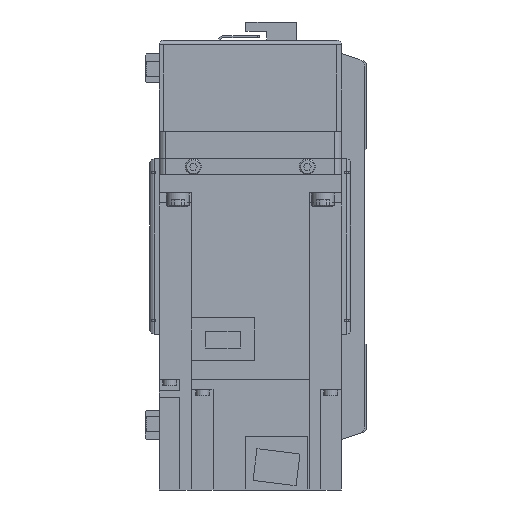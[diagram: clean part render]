
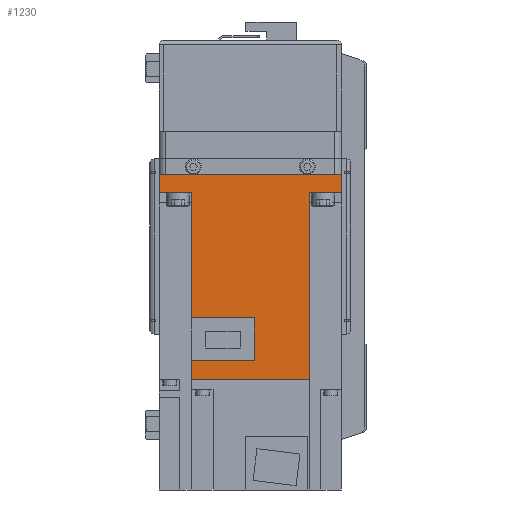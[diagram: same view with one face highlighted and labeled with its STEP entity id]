
A CAD part, left-side view. The second image highlights one B-rep face of the part: STEP entity #1230.
In plain terms, the highlighted planar face has unit normal (-1, 0, 0) as drawn and (1, 0, 0) by its records, which use the part's own axes.
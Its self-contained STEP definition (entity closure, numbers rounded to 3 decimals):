
#1230 = ADVANCED_FACE( '', ( #3432 ), #3433, .F. );
#3432 = FACE_OUTER_BOUND( '', #6988, .T. );
#3433 = PLANE( '', #6989 );
#6988 = EDGE_LOOP( '', ( #10532, #10533, #10534, #10535, #10536, #10537, #10538, #10539, #10540, #10541, #10542, #10543 ) );
#6989 = AXIS2_PLACEMENT_3D( '', #10544, #10545, #10546 );
#10532 = ORIENTED_EDGE( '', *, *, #20021, .F. );
#10533 = ORIENTED_EDGE( '', *, *, #20022, .F. );
#10534 = ORIENTED_EDGE( '', *, *, #20023, .F. );
#10535 = ORIENTED_EDGE( '', *, *, #20024, .T. );
#10536 = ORIENTED_EDGE( '', *, *, #20025, .F. );
#10537 = ORIENTED_EDGE( '', *, *, #20026, .T. );
#10538 = ORIENTED_EDGE( '', *, *, #20027, .T. );
#10539 = ORIENTED_EDGE( '', *, *, #20028, .F. );
#10540 = ORIENTED_EDGE( '', *, *, #20029, .F. );
#10541 = ORIENTED_EDGE( '', *, *, #20030, .F. );
#10542 = ORIENTED_EDGE( '', *, *, #20031, .F. );
#10543 = ORIENTED_EDGE( '', *, *, #20032, .F. );
#10544 = CARTESIAN_POINT( '', ( 40., 89.8, 40. ) );
#10545 = DIRECTION( '', ( -1., 0., 0. ) );
#10546 = DIRECTION( '', ( 0., 0., 1. ) );
#20021 = EDGE_CURVE( '', #23695, #23696, #23697, .T. );
#20022 = EDGE_CURVE( '', #23698, #23695, #23699, .T. );
#20023 = EDGE_CURVE( '', #23700, #23698, #23701, .T. );
#20024 = EDGE_CURVE( '', #23700, #23702, #23703, .T. );
#20025 = EDGE_CURVE( '', #23704, #23702, #23705, .T. );
#20026 = EDGE_CURVE( '', #23704, #23706, #23707, .T. );
#20027 = EDGE_CURVE( '', #23706, #23708, #23709, .T. );
#20028 = EDGE_CURVE( '', #23710, #23708, #23711, .T. );
#20029 = EDGE_CURVE( '', #23712, #23710, #23713, .T. );
#20030 = EDGE_CURVE( '', #23714, #23712, #23715, .T. );
#20031 = EDGE_CURVE( '', #23716, #23714, #23717, .T. );
#20032 = EDGE_CURVE( '', #23696, #23716, #23718, .T. );
#23695 = VERTEX_POINT( '', #29171 );
#23696 = VERTEX_POINT( '', #29172 );
#23697 = LINE( '', #29173, #29174 );
#23698 = VERTEX_POINT( '', #29175 );
#23699 = LINE( '', #29176, #29177 );
#23700 = VERTEX_POINT( '', #29178 );
#23701 = LINE( '', #29179, #29180 );
#23702 = VERTEX_POINT( '', #29181 );
#23703 = LINE( '', #29182, #29183 );
#23704 = VERTEX_POINT( '', #29184 );
#23705 = LINE( '', #29185, #29186 );
#23706 = VERTEX_POINT( '', #29187 );
#23707 = LINE( '', #29188, #29189 );
#23708 = VERTEX_POINT( '', #29190 );
#23709 = LINE( '', #29191, #29192 );
#23710 = VERTEX_POINT( '', #29193 );
#23711 = LINE( '', #29194, #29195 );
#23712 = VERTEX_POINT( '', #29196 );
#23713 = LINE( '', #29197, #29198 );
#23714 = VERTEX_POINT( '', #29199 );
#23715 = LINE( '', #29200, #29201 );
#23716 = VERTEX_POINT( '', #29202 );
#23717 = LINE( '', #29203, #29204 );
#23718 = LINE( '', #29205, #29206 );
#29171 = CARTESIAN_POINT( '', ( 40., 81.4, -25.95 ) );
#29172 = CARTESIAN_POINT( '', ( 40., 81.4, 1.8 ) );
#29173 = CARTESIAN_POINT( '', ( 40., 81.4, -26. ) );
#29174 = VECTOR( '', #37542, 1000. );
#29175 = CARTESIAN_POINT( '', ( 40., 89.8, -25.95 ) );
#29176 = CARTESIAN_POINT( '', ( 40., 158., -25.95 ) );
#29177 = VECTOR( '', #37543, 1000. );
#29178 = CARTESIAN_POINT( '', ( 40., 89.8, 25.95 ) );
#29179 = CARTESIAN_POINT( '', ( 40., 89.8, 40. ) );
#29180 = VECTOR( '', #37544, 1000. );
#29181 = CARTESIAN_POINT( '', ( 40., 8., 25.95 ) );
#29182 = CARTESIAN_POINT( '', ( 40., 158., 25.95 ) );
#29183 = VECTOR( '', #37545, 1000. );
#29184 = CARTESIAN_POINT( '', ( 40., 8., 40. ) );
#29185 = CARTESIAN_POINT( '', ( 40., 8., 40. ) );
#29186 = VECTOR( '', #37546, 1000. );
#29187 = CARTESIAN_POINT( '', ( 40., 0., 40. ) );
#29188 = CARTESIAN_POINT( '', ( 40., 89.8, 40. ) );
#29189 = VECTOR( '', #37547, 1000. );
#29190 = CARTESIAN_POINT( '', ( 40., 0., -40. ) );
#29191 = CARTESIAN_POINT( '', ( 40., 0., 40. ) );
#29192 = VECTOR( '', #37548, 1000. );
#29193 = CARTESIAN_POINT( '', ( 40., 8., -40. ) );
#29194 = CARTESIAN_POINT( '', ( 40., 89.8, -40. ) );
#29195 = VECTOR( '', #37549, 1000. );
#29196 = CARTESIAN_POINT( '', ( 40., 8., -25.95 ) );
#29197 = CARTESIAN_POINT( '', ( 40., 8., 40. ) );
#29198 = VECTOR( '', #37550, 1000. );
#29199 = CARTESIAN_POINT( '', ( 40., 62.8, -25.95 ) );
#29200 = CARTESIAN_POINT( '', ( 40., 158., -25.95 ) );
#29201 = VECTOR( '', #37551, 1000. );
#29202 = CARTESIAN_POINT( '', ( 40., 62.8, 1.8 ) );
#29203 = CARTESIAN_POINT( '', ( 40., 62.8, 1.8 ) );
#29204 = VECTOR( '', #37552, 1000. );
#29205 = CARTESIAN_POINT( '', ( 40., 81.4, 1.8 ) );
#29206 = VECTOR( '', #37553, 1000. );
#37542 = DIRECTION( '', ( 0., 0., 1. ) );
#37543 = DIRECTION( '', ( 0., -1., 0. ) );
#37544 = DIRECTION( '', ( 0., 0., -1. ) );
#37545 = DIRECTION( '', ( 0., -1., 0. ) );
#37546 = DIRECTION( '', ( 0., 0., -1. ) );
#37547 = DIRECTION( '', ( 0., -1., 0. ) );
#37548 = DIRECTION( '', ( 0., 0., -1. ) );
#37549 = DIRECTION( '', ( 0., -1., 0. ) );
#37550 = DIRECTION( '', ( 0., 0., -1. ) );
#37551 = DIRECTION( '', ( 0., -1., 0. ) );
#37552 = DIRECTION( '', ( 0., 0., -1. ) );
#37553 = DIRECTION( '', ( 0., -1., 0. ) );
